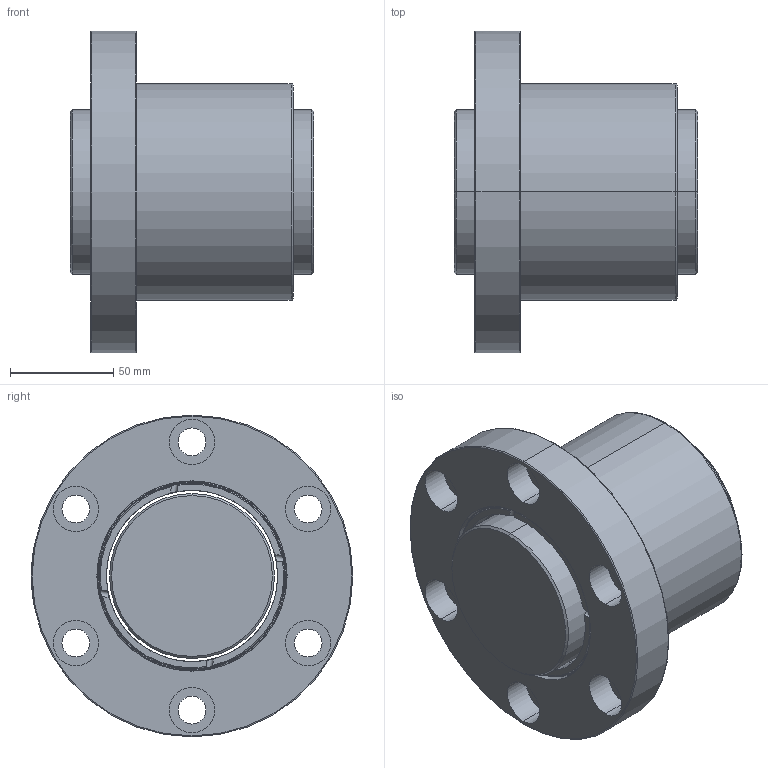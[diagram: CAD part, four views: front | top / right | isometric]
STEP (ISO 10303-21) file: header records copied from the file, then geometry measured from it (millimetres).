
FILE_DESCRIPTION (( 'STEP AP203' ), '1' );
FILE_NAME ('SFZR08010T4N-C.STEP', '2020-06-18T01:05:05', ( '' ), ( '' ), 'SwSTEP 2.0', 'SolidWorks 2013', '' );
FILE_SCHEMA (( 'CONFIG_CONTROL_DESIGN' ));
Length unit declared in the file: millimetre
Products named in the file (1): SFZR08010T4N-C
Bounding box: 118 x 156 x 156 mm (x, y, z)
Volume: 1093519.5 mm3; surface area: 144863.4 mm2
Topology: 2 solids, 2 shells, 114 faces, 278 edges, 178 vertices
Faces by surface type: cylinder 60, plane 26, torus 24, cone 4
Entity records: 3979 total; most frequent: CARTESIAN_POINT 1105, DIRECTION 634, ORIENTED_EDGE 556, AXIS2_PLACEMENT_3D 279, EDGE_CURVE 278, VERTEX_POINT 178, CIRCLE 164, EDGE_LOOP 142
